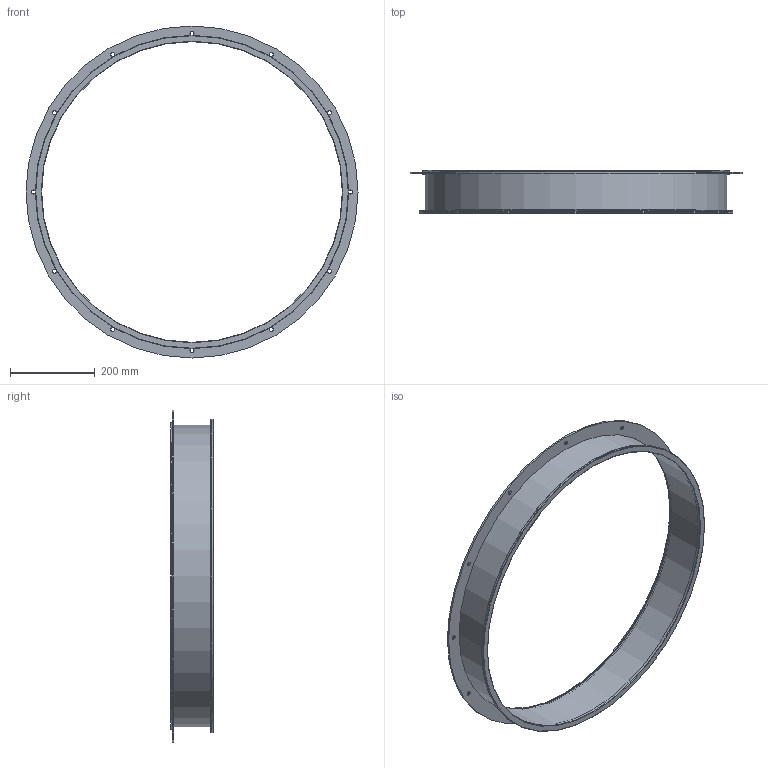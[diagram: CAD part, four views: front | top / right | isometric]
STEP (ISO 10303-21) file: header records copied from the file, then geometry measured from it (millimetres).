
FILE_DESCRIPTION(/* description */ (''),/* implementation_level */ '2;1');
FILE_NAME(/* name */ 'METU_EA114-41B_710_L100.stp',/* time_stamp */ '2018-10-10T13:38:02+02:00',/* author */ (''),/* organization */ (''),/* preprocessor_version */ 'ST-DEVELOPER v11',/* originating_system */ 'SIEMENS UGS NX 6.0',/* authorisation */ '');
FILE_SCHEMA (('CONFIG_CONTROL_DESIGN'));
Length unit declared in the file: millimetre
Products named in the file (1): garsCF17dea8
Bounding box: 784 x 101.5 x 784 mm (x, y, z)
Volume: 826903.2 mm3; surface area: 784388.2 mm2
Topology: 3 solids, 3 shells, 36 faces, 93 edges, 66 vertices
Faces by surface type: cylinder 21, plane 9, torus 5, cone 1
Full cylindrical faces by diameter (mm): 9.5 x12, 710 x2, 712 x2, 714 x1, 722 x2, 740 x1, 784 x1
Entity records: 986 total; most frequent: DIRECTION 170, CARTESIAN_POINT 133, FACE_BOUND 96, EDGE_LOOP 96, ORIENTED_EDGE 96, AXIS2_PLACEMENT_3D 85, VERTEX_POINT 48, EDGE_CURVE 48
